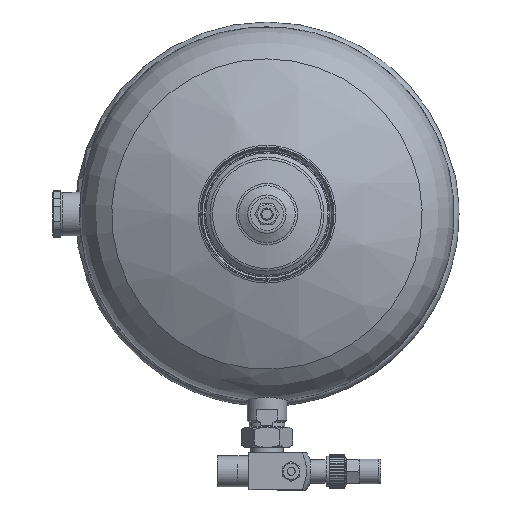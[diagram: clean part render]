
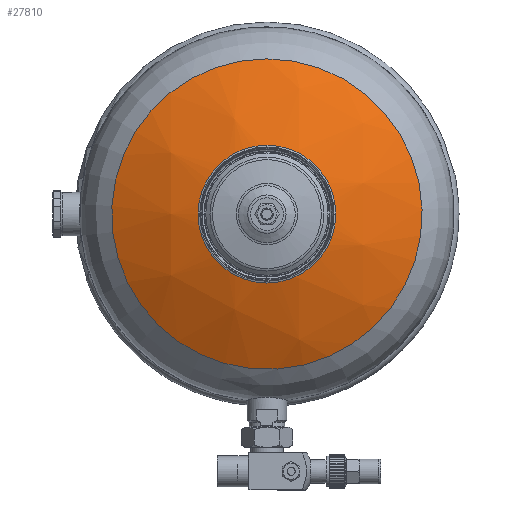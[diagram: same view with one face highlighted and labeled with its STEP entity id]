
A CAD part, front view. The second image highlights one B-rep face of the part: STEP entity #27810.
In plain terms, the highlighted spherical face has radius 244 mm.
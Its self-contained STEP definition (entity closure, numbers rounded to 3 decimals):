
#336=SPHERICAL_SURFACE('',#29159,244.);
#1077=FACE_BOUND('',#5962,.T.);
#4260=FACE_OUTER_BOUND('',#5961,.T.);
#5961=EDGE_LOOP('',(#24280));
#5962=EDGE_LOOP('',(#24281));
#10676=CIRCLE('',#29160,125.194);
#10677=CIRCLE('',#29161,50.471);
#13163=VERTEX_POINT('',#60097);
#13164=VERTEX_POINT('',#60099);
#17011=EDGE_CURVE('',#13163,#13163,#10676,.T.);
#17012=EDGE_CURVE('',#13164,#13164,#10677,.T.);
#24280=ORIENTED_EDGE('',*,*,#17011,.F.);
#24281=ORIENTED_EDGE('',*,*,#17012,.T.);
#27810=ADVANCED_FACE('',(#4260,#1077),#336,.T.);
#29159=AXIS2_PLACEMENT_3D('',#60096,#33274,#33275);
#29160=AXIS2_PLACEMENT_3D('',#60098,#33276,#33277);
#29161=AXIS2_PLACEMENT_3D('',#60100,#33278,#33279);
#33274=DIRECTION('center_axis',(1.,0.,0.));
#33275=DIRECTION('ref_axis',(0.,0.,
1.));
#33276=DIRECTION('center_axis',(0.,1.,0.));
#33277=DIRECTION('ref_axis',(0.,0.,
-1.));
#33278=DIRECTION('center_axis',(0.,1.,0.));
#33279=DIRECTION('ref_axis',(0.,0.,-1.));
#60096=CARTESIAN_POINT('Origin',(0.,83.8,0.));
#60097=CARTESIAN_POINT('',(0.,-125.634,125.194));
#60098=CARTESIAN_POINT('Origin',(0.,-125.634,
0.));
#60099=CARTESIAN_POINT('',(0.,-154.923,50.471));
#60100=CARTESIAN_POINT('Origin',(0.,-154.923,
0.));
